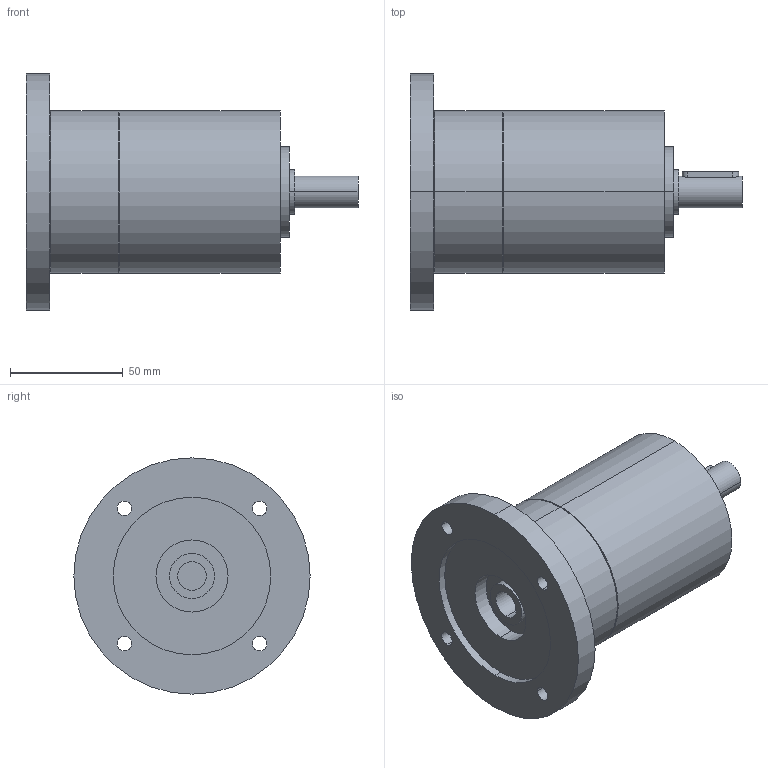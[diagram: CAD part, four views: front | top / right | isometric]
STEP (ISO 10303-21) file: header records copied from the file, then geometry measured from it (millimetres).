
FILE_DESCRIPTION(('CoCreate Modeling STEP Export'),'2;1');
FILE_NAME('GPT75_ig-9-12-16-20-25-28-35-40-50-70-100_14_B14T_12.7_P05.stp','2014-08-27T13:09:01',(''),(''),'CoCreate Modeling STEP processor for AP214 (Solid Model)','CoCreate Modeling 16.00C 25-Feb-2009 (C) Parametric Technology GmbH','');
FILE_SCHEMA(('AUTOMOTIVE_DESIGN { 1 0 10303 214 1 1 1 1 }'));
Length unit declared in the file: millimetre
Products named in the file (2): GPT75_ig-9-12-16-20-25-28-35-40-50-70-100_14_B14T_12.7_P05
Assembly tree (1 placements, depth 2):
  GPT75_ig-9-12-16-20-25-28-35-40-50-70-100_14_B14T_12.7_P05
    GPT75_ig-9-12-16-20-25-28-35-40-50-70-100_14_B14T_12.7_P05
Bounding box: 147.5 x 105 x 105 mm (x, y, z)
Volume: 494103.3 mm3; surface area: 50683.9 mm2
Topology: 1 solids, 1 shells, 63 faces, 150 edges, 103 vertices
Faces by surface type: cylinder 40, plane 19, cone 4
Entity records: 1954 total; most frequent: CARTESIAN_POINT 627, ORIENTED_EDGE 300, DIRECTION 222, EDGE_CURVE 150, VERTEX_POINT 103, AXIS2_PLACEMENT_3D 86, EDGE_LOOP 85, FACE_OUTER_BOUND 63
